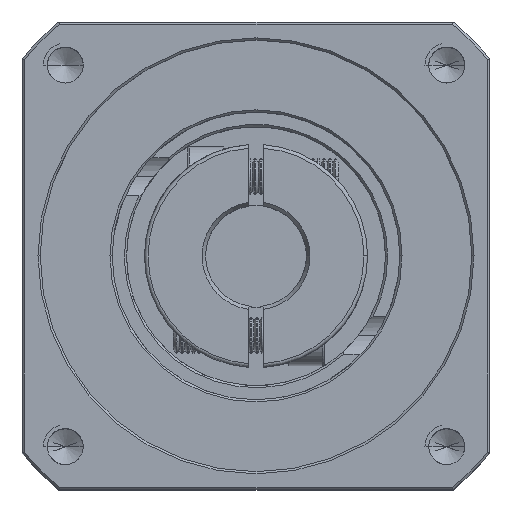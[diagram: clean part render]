
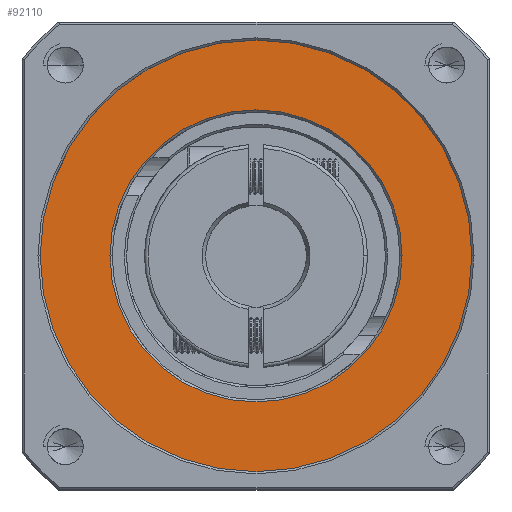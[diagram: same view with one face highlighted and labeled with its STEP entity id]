
A CAD part, top view. The second image highlights one B-rep face of the part: STEP entity #92110.
In plain terms, the highlighted planar face has unit normal (0, 0, 1).
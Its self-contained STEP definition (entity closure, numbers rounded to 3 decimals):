
#7581 = DIRECTION ( 'NONE',  ( 0., 0., -1. ) ) ;
#7662 = EDGE_LOOP ( 'NONE', ( #16169, #38790 ) ) ;
#11198 = DIRECTION ( 'NONE',  ( 0., 0., 1. ) ) ;
#11708 = VERTEX_POINT ( 'NONE', #84931 ) ;
#15262 = DIRECTION ( 'NONE',  ( 0., 0., -1. ) ) ;
#16003 = VERTEX_POINT ( 'NONE', #74146 ) ;
#16156 = DIRECTION ( 'NONE',  ( 0., 0., 1. ) ) ;
#16169 = ORIENTED_EDGE ( 'NONE', *, *, #84940, .T. ) ;
#25050 = FACE_OUTER_BOUND ( 'NONE', #25728, .T. ) ;
#25728 = EDGE_LOOP ( 'NONE', ( #55743, #26387 ) ) ;
#26387 = ORIENTED_EDGE ( 'NONE', *, *, #107294, .T. ) ;
#26979 = PLANE ( 'NONE',  #95804 ) ;
#27717 = FACE_BOUND ( 'NONE', #7662, .T. ) ;
#35770 = DIRECTION ( 'NONE',  ( 0., 0., 1. ) ) ;
#38790 = ORIENTED_EDGE ( 'NONE', *, *, #106322, .T. ) ;
#46532 = AXIS2_PLACEMENT_3D ( 'NONE', #67642, #15262, #76432 ) ;
#46700 = CIRCLE ( 'NONE', #63291, 30. ) ;
#51290 = VERTEX_POINT ( 'NONE', #63033 ) ;
#51472 = VERTEX_POINT ( 'NONE', #69073 ) ;
#55743 = ORIENTED_EDGE ( 'NONE', *, *, #65688, .T. ) ;
#59866 = CARTESIAN_POINT ( 'NONE',  ( -42.303, 26.852, -14.843 ) ) ;
#63033 = CARTESIAN_POINT ( 'NONE',  ( -62.603, 26.852, -14.843 ) ) ;
#63291 = AXIS2_PLACEMENT_3D ( 'NONE', #63550, #11198, #72343 ) ;
#63550 = CARTESIAN_POINT ( 'NONE',  ( -42.303, 26.852, -14.843 ) ) ;
#65688 = EDGE_CURVE ( 'NONE', #51472, #16003, #71795, .T. ) ;
#67642 = CARTESIAN_POINT ( 'NONE',  ( -42.303, 26.852, -14.843 ) ) ;
#68496 = CARTESIAN_POINT ( 'NONE',  ( -42.303, 26.852, -14.843 ) ) ;
#68671 = DIRECTION ( 'NONE',  ( 1., 0., 0. ) ) ;
#69073 = CARTESIAN_POINT ( 'NONE',  ( -12.303, 26.852, -14.843 ) ) ;
#71795 = CIRCLE ( 'NONE', #84511, 30. ) ;
#72343 = DIRECTION ( 'NONE',  ( 1., 0., 0. ) ) ;
#74146 = CARTESIAN_POINT ( 'NONE',  ( -72.303, 26.852, -14.843 ) ) ;
#76432 = DIRECTION ( 'NONE',  ( 1., 0., 0. ) ) ;
#77278 = DIRECTION ( 'NONE',  ( 1., 0., 0. ) ) ;
#84511 = AXIS2_PLACEMENT_3D ( 'NONE', #68496, #16156, #77278 ) ;
#84931 = CARTESIAN_POINT ( 'NONE',  ( -22.003, 26.852, -14.843 ) ) ;
#84940 = EDGE_CURVE ( 'NONE', #11708, #51290, #88367, .T. ) ;
#88173 = CARTESIAN_POINT ( 'NONE',  ( -42.303, 26.852, -14.843 ) ) ;
#88367 = CIRCLE ( 'NONE', #46532, 20.3 ) ;
#92110 = ADVANCED_FACE ( 'NONE', ( #27717, #25050 ), #26979, .T. ) ;
#95804 = AXIS2_PLACEMENT_3D ( 'NONE', #88173, #35770, #96966 ) ;
#96419 = CIRCLE ( 'NONE', #107777, 20.3 ) ;
#96966 = DIRECTION ( 'NONE',  ( 1., 0., 0. ) ) ;
#106322 = EDGE_CURVE ( 'NONE', #51290, #11708, #96419, .T. ) ;
#107294 = EDGE_CURVE ( 'NONE', #16003, #51472, #46700, .T. ) ;
#107777 = AXIS2_PLACEMENT_3D ( 'NONE', #59866, #7581, #68671 ) ;
